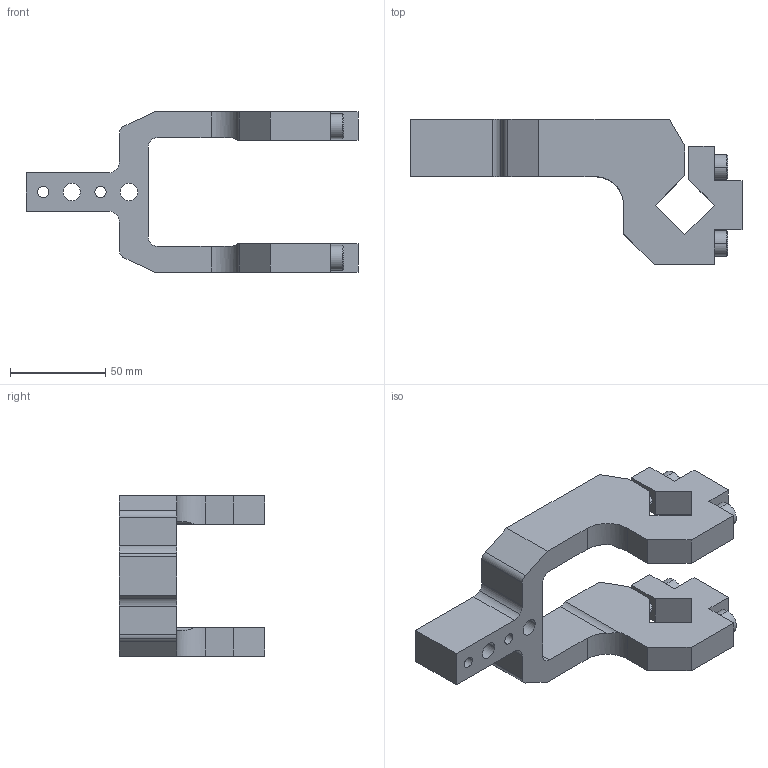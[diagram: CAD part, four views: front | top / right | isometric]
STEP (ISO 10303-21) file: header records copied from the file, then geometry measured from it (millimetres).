
FILE_DESCRIPTION((''),'2;1');
FILE_NAME('S:\Matthew\Step Files\XM Clamp Arms\XJ63-CA-01.stp','2006-06-28T08:14:32',('Matthew'),(''),'Autodesk Inventor 8','Autodesk Inventor 8','');
FILE_SCHEMA(('AUTOMOTIVE_DESIGN { 1 0 10303 214 1 1 1 1 }'));
Length unit declared in the file: millimetre
Products named in the file (1): XJ63-CA-01
Bounding box: 174 x 76 x 84 mm (x, y, z)
Volume: 186891.8 mm3; surface area: 50077.5 mm2
Topology: 1 solids, 3 shells, 149 faces, 383 edges, 246 vertices
Faces by surface type: plane 88, bspline 32, cylinder 21, cone 8
Entity records: 4912 total; most frequent: CARTESIAN_POINT 1329, ORIENTED_EDGE 750, DIRECTION 707, EDGE_CURVE 375, VECTOR 275, LINE 275, VERTEX_POINT 246, AXIS2_PLACEMENT_3D 216
